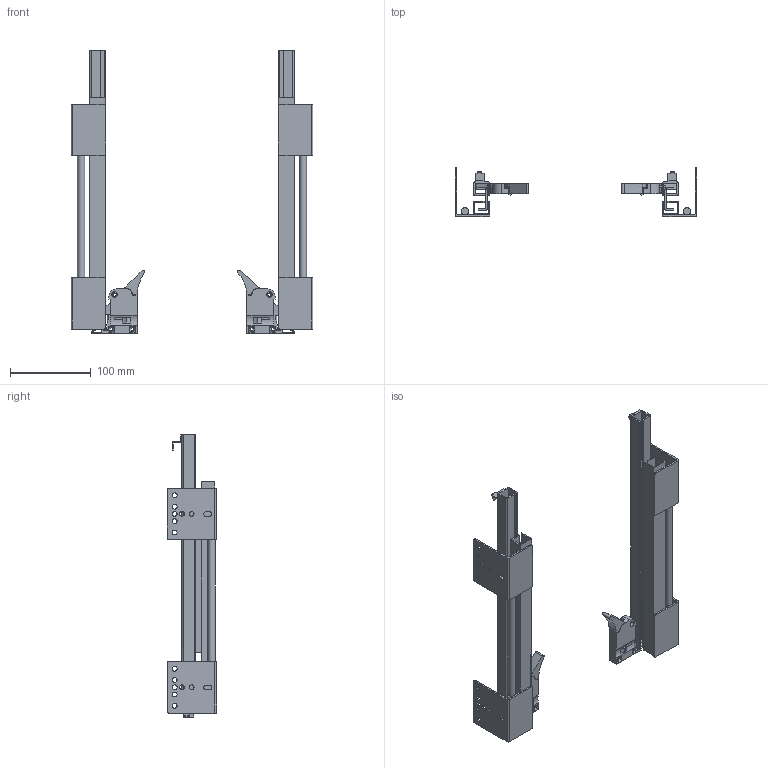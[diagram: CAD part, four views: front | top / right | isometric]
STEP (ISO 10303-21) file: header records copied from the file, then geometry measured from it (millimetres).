
FILE_DESCRIPTION(/* description */ (''),/* implementation_level */ '2;1');
FILE_NAME(/* name */ 'C:\Users\dmitruk\Documents\WORK\НАПРАВЛЯЮЩИЕ\Скрытого монтажа\SLIM SLIDE Направляющие скрытого монтажа полного выдвижения (18 мм)\SLIM SLIDE Направляющие скрытого монтажа полного выдвижения (18 мм)-350.stp',/* time_stamp */ '2022-04-22T11:22:07+03:00',/* author */ ('dmitruk'),/* organization */ (''),/* preprocessor_version */ 'ST-DEVELOPER v16.5',/* originating_system */ 'Autodesk Inventor 2017',/* authorisation */ '');
FILE_SCHEMA (('AUTOMOTIVE_DESIGN { 1 0 10303 214 3 1 1 }'));
Length unit declared in the file: millimetre
Products named in the file (8): SLIM SLIDE Направляющие \X2\0441
043A0440044B0442043E0433043E\X0\ монтажа 
полного \X2\0432044B04340432043804360435043D
0438044F\X0\ (18 мм); Направляющие \X2\0441043A
0440044B0442043E0433043E\X0\ монтажа \X2\043F
043E043B043D043E0433043E\X0\ \X2\0432044B04340432043804360435043D0438044F
\X0\ slim CR slim(18 mm); Направляющие \X2\0441043A
0440044B0442043E0433043E\X0\ монтажа \X2\043F
043E043B043D043E0433043E\X0\ \X2\0432044B04340432043804360435043D0438044F
\X0\ slim DR slim; Крепление \X2\0434043B
044F\X0\ полного SLIM R; Направляющие \X2\0441043A
0440044B0442043E0433043E\X0\ монтажа \X2\043F
043E043B043D043E0433043E\X0\ \X2\0432044B04340432043804360435043D0438044F
\X0\ slim CL slim(18 mm); Крепление \X2\0434043B
044F\X0\ полного SLIM L; Направляющие \X2\0441043A
0440044B0442043E0433043E\X0\ монтажа \X2\043F
043E043B043D043E0433043E\X0\ \X2\0432044B04340432043804360435043D0438044F
\X0\ slim DW slim slide; Направляющие \X2\0441043A
0440044B0442043E0433043E\X0\ монтажа \X2\043F
043E043B043D043E0433043E\X0\ \X2\0432044B04340432043804360435043D0438044F
\X0\ slim DL slim
Assembly tree (8 placements, depth 2):
  SLIM SLIDE Направляющие \X2\0441
043A0440044B0442043E0433043E\X0\ монтажа 
полного \X2\0432044B04340432043804360435043D
0438044F\X0\ (18 мм)
    Направляющие \X2\0441043A
0440044B0442043E0433043E\X0\ монтажа \X2\043F
043E043B043D043E0433043E\X0\ \X2\0432044B04340432043804360435043D0438044F
\X0\ slim CR slim(18 mm)
    Направляющие \X2\0441043A
0440044B0442043E0433043E\X0\ монтажа \X2\043F
043E043B043D043E0433043E\X0\ \X2\0432044B04340432043804360435043D0438044F
\X0\ slim DR slim
    Направляющие \X2\0441043A
0440044B0442043E0433043E\X0\ монтажа \X2\043F
043E043B043D043E0433043E\X0\ \X2\0432044B04340432043804360435043D0438044F
\X0\ slim DW slim slide  x2
    Крепление \X2\0434043B
044F\X0\ полного SLIM R
    Направляющие \X2\0441043A
0440044B0442043E0433043E\X0\ монтажа \X2\043F
043E043B043D043E0433043E\X0\ \X2\0432044B04340432043804360435043D0438044F
\X0\ slim CL slim(18 mm)
    Крепление \X2\0434043B
044F\X0\ полного SLIM L
    Направляющие \X2\0441043A
0440044B0442043E0433043E\X0\ монтажа \X2\043F
043E043B043D043E0433043E\X0\ \X2\0432044B04340432043804360435043D0438044F
\X0\ slim DL slim
Bounding box: 300 x 61 x 350 mm (x, y, z)
Volume: 274035.9 mm3; surface area: 279074.2 mm2
Topology: 16 solids, 16 shells, 520 faces, 1468 edges, 972 vertices
Faces by surface type: plane 368, cylinder 148, cone 4
Full cylindrical faces by diameter (mm): 4 x10, 6 x28, 7 x2, 9.002 x2
Entity records: 16390 total; most frequent: CARTESIAN_POINT 2832, DIRECTION 2706, ORIENTED_EDGE 2704, EDGE_CURVE 1352, LINE 1030, VECTOR 1030, VERTEX_POINT 912, AXIS2_PLACEMENT_3D 838
